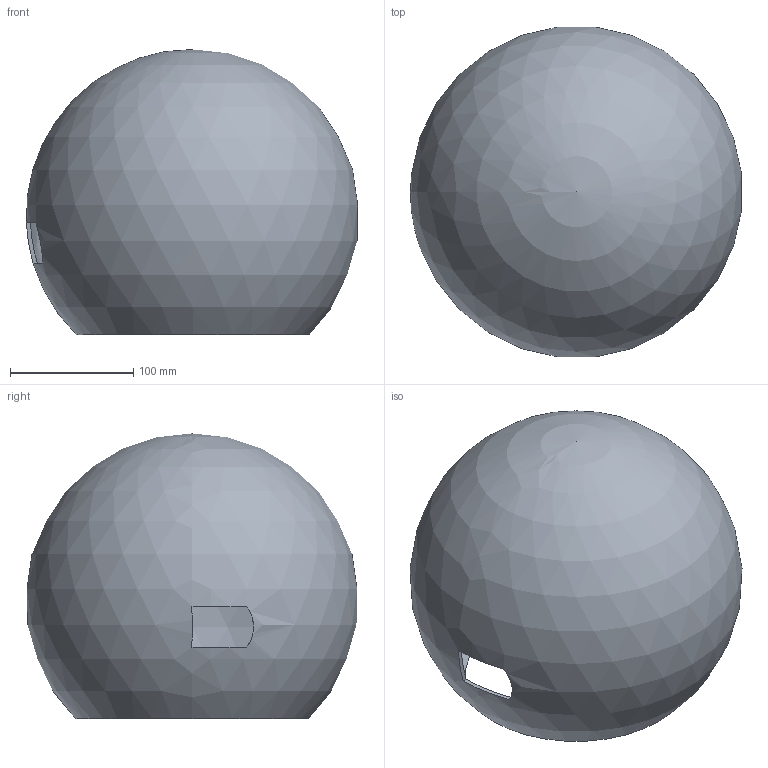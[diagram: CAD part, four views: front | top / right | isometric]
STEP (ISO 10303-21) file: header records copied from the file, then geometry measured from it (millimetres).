
FILE_DESCRIPTION(/* description */ ('','CAx-IF Rec.Pracs.---Representation and Presentation of Product Manufacturing Information (PMI)---4.0---2014-10-13'),/* implementation_level */ '2;1');
FILE_NAME(/* name */ 'OxPal.step',/* time_stamp */ '2025-04-05T15:09:27+03:00',/* author */ (''),/* organization */ (''),/* preprocessor_version */ 'ST-DEVELOPER v20',/* originating_system */ 'Autodesk Translation Framework v13.20.0.188',/* authorisation */ '');
FILE_SCHEMA (('AP242_MANAGED_MODEL_BASED_3D_ENGINEERING_MIM_LF { 1 0 10303 442 1 1 4 }'));
Length unit declared in the file: millimetre
Products named in the file (1): OxPal_Parametric
Bounding box: 268.76 x 267.74 x 231.41 mm (x, y, z)
Volume: 620466.8 mm3; surface area: 385108 mm2
Topology: 1 solids, 1 shells, 7 faces, 20 edges, 12 vertices
Faces by surface type: plane 4, sphere 2, cylinder 1
Entity records: 289 total; most frequent: CARTESIAN_POINT 74, DIRECTION 44, ORIENTED_EDGE 36, AXIS2_PLACEMENT_3D 20, EDGE_CURVE 18, CIRCLE 12, VERTEX_POINT 12, EDGE_LOOP 8
